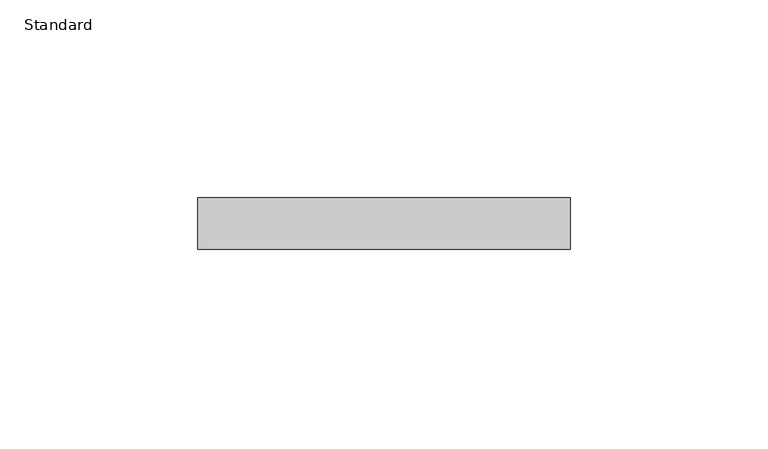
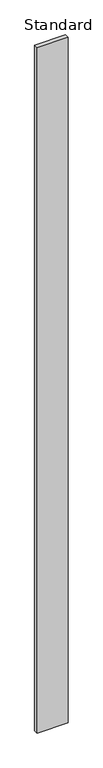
"""IFC4 building model written with IfcOpenShell, lengths in millimetres: furniture geometry, X_Partition-Compact Laminate-Duracube-Rectangular : Standard."""

from ifc_helpers import new_model, si_unit, frame, origin, place, context, project, spatial, polyline, outline, extrude, source, transform, mapped, element, save


def standard_33255a47(model_context):
    return source(origin(), model_context, "Body", "SweptSolid", [
        extrude(outline(polyline([(91.7003264, 0.0), (91.7003264, -13.0), (-2.2996736, -13.0), (-2.2996736, 0.0), (91.7003264, 0.0)])), frame((0.0, 0.0, 200.0), z_axis=(0.0, 0.0, 1.0), x_axis=(1.0, 0.0, 0.0)), (0.0, 0.0, 1.0), 2198.0),
    ])


if __name__ == "__main__":
    model = new_model("IFC4")
    model_context = context("Model", 3, world=origin())
    ifc_project = project(units=[si_unit("LENGTHUNIT", "METRE", prefix="MILLI")], contexts=[model_context])
    site = spatial("IfcSite", under=ifc_project)
    building = spatial("IfcBuilding", under=site)
    placement = place(None, origin())
    standard_shape = standard_33255a47(model_context)
    element("IfcFurniture", 1, ObjectType="X_Partition-Compact Laminate-Duracube-Rectangular : Standard", at=placement, inside=building, context=model_context, shape_type="MappedRepresentation", body=[
        mapped(standard_shape, transform((0.0, 0.0, 0.0), x_axis=(1.0, 0.0, 0.0), y_axis=(0.0, 1.0, 0.0), z_axis=(0.0, 0.0, 1.0))),
    ])
    save(model, "model.ifc")
